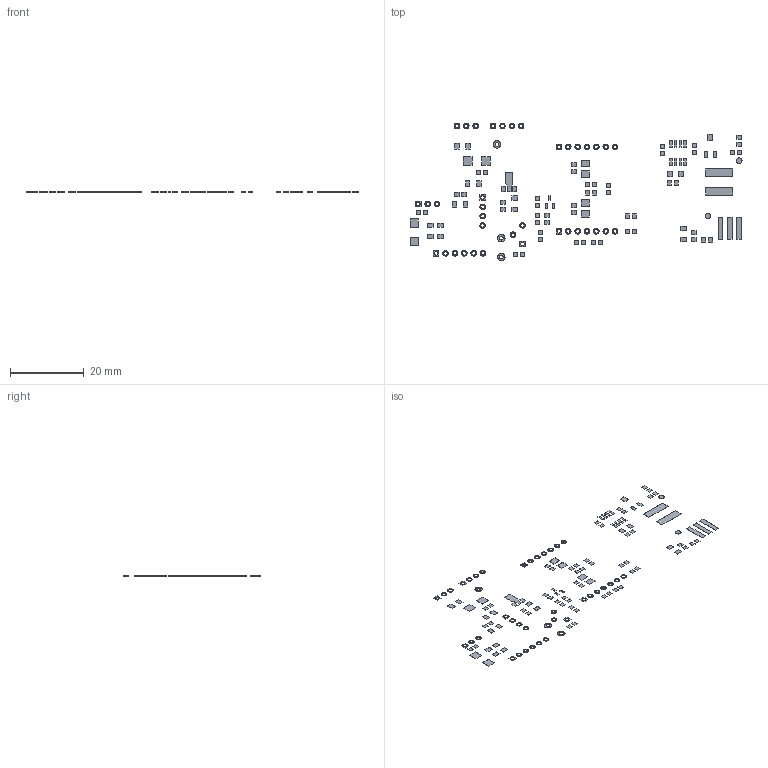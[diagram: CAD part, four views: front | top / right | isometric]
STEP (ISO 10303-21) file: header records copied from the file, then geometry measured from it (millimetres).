
FILE_DESCRIPTION(('None'),'2;1');
FILE_NAME('LPC_PD_POWER(rev_0.1)_221026_CopperTop.step', '', (' '), ('Mentor Graphics'), '', 'Expedition PCB', ' ');
FILE_SCHEMA(('CONFIG_CONTROL_DESIGN'));
Length unit declared in the file: millimetre
Products named in the file (1): LPC_PD_POWER(rev_0.1)_221026_CopperTop
Bounding box: 90 x 37.3 x 0.03 mm (x, y, z)
Volume: 9.1 mm3; surface area: 564.3 mm2
Topology: 138 solids, 138 shells, 888 faces, 1836 edges, 1224 vertices
Faces by surface type: plane 696, cylinder 192
Entity records: 21184 total; most frequent: DIRECTION 3998, ORIENTED_EDGE 3672, EDGE_CURVE 1836, CARTESIAN_POINT 1609, LINE 1452, VECTOR 1452, AXIS2_PLACEMENT_3D 1273, VERTEX_POINT 1224
